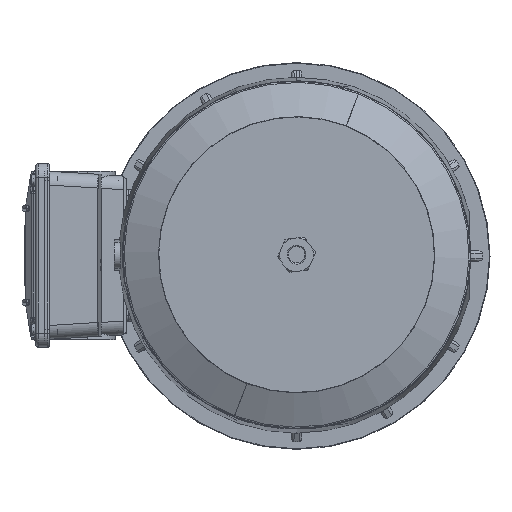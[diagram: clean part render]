
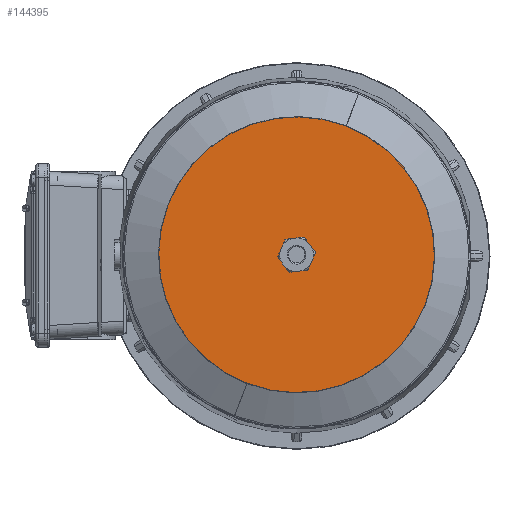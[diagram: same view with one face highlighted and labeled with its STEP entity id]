
A CAD part, top view. The second image highlights one B-rep face of the part: STEP entity #144395.
In plain terms, the highlighted planar face has unit normal (0, 0, 1) as drawn and (0, -1, 0) by its records, which use the part's own axes.
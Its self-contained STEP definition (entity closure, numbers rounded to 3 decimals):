
#21659 = ORIENTED_EDGE ( 'NONE', *, *, #56531, .T. ) ;
#22906 = CIRCLE ( 'NONE', #72457, 125. ) ;
#24454 = DIRECTION ( 'NONE',  ( 0., -1., 0. ) ) ;
#24789 = FACE_OUTER_BOUND ( 'NONE', #183727, .T. ) ;
#25455 = CARTESIAN_POINT ( 'NONE',  ( 0., 0., 0. ) ) ;
#26635 = CIRCLE ( 'NONE', #79137, 13.5 ) ;
#38911 = VERTEX_POINT ( 'NONE', #124630 ) ;
#42017 = DIRECTION ( 'NONE',  ( 0., 0., 1. ) ) ;
#52872 = DIRECTION ( 'NONE',  ( 0., 1., 0. ) ) ;
#56531 = EDGE_CURVE ( 'NONE', #180254, #38911, #81266, .T. ) ;
#60079 = EDGE_LOOP ( 'NONE', ( #179143, #21659 ) ) ;
#69357 = AXIS2_PLACEMENT_3D ( 'NONE', #123505, #24454, #140144 ) ;
#72457 = AXIS2_PLACEMENT_3D ( 'NONE', #74685, #190465, #91306 ) ;
#74685 = CARTESIAN_POINT ( 'NONE',  ( 0., 0., 0. ) ) ;
#79137 = AXIS2_PLACEMENT_3D ( 'NONE', #181359, #82266, #198063 ) ;
#81266 = CIRCLE ( 'NONE', #108115, 13.5 ) ;
#82266 = DIRECTION ( 'NONE',  ( 0., 1., 0. ) ) ;
#91306 = DIRECTION ( 'NONE',  ( 0., 0., 1. ) ) ;
#108115 = AXIS2_PLACEMENT_3D ( 'NONE', #25455, #141137, #42017 ) ;
#109280 = CARTESIAN_POINT ( 'NONE',  ( 0., 0., -13.5 ) ) ;
#120430 = EDGE_CURVE ( 'NONE', #38911, #180254, #26635, .T. ) ;
#123505 = CARTESIAN_POINT ( 'NONE',  ( -13.5, 0., 0. ) ) ;
#124630 = CARTESIAN_POINT ( 'NONE',  ( 0., 0., 13.5 ) ) ;
#135885 = PLANE ( 'NONE',  #69357 ) ;
#138896 = CARTESIAN_POINT ( 'NONE',  ( 0., 0., 125. ) ) ;
#140144 = DIRECTION ( 'NONE',  ( 0., 0., -1. ) ) ;
#141137 = DIRECTION ( 'NONE',  ( 0., 1., 0. ) ) ;
#144395 = ADVANCED_FACE ( 'NONE', ( #151543, #24789 ), #135885, .T. ) ;
#150911 = ORIENTED_EDGE ( 'NONE', *, *, #153939, .F. ) ;
#151543 = FACE_BOUND ( 'NONE', #60079, .T. ) ;
#151979 = CARTESIAN_POINT ( 'NONE',  ( 0., 0., 0. ) ) ;
#153939 = EDGE_CURVE ( 'NONE', #202503, #203073, #22906, .T. ) ;
#160481 = ORIENTED_EDGE ( 'NONE', *, *, #167517, .F. ) ;
#162188 = CIRCLE ( 'NONE', #193265, 125. ) ;
#167517 = EDGE_CURVE ( 'NONE', #203073, #202503, #162188, .T. ) ;
#168647 = DIRECTION ( 'NONE',  ( 0., 0., 1. ) ) ;
#179143 = ORIENTED_EDGE ( 'NONE', *, *, #120430, .T. ) ;
#180254 = VERTEX_POINT ( 'NONE', #109280 ) ;
#181359 = CARTESIAN_POINT ( 'NONE',  ( 0., 0., 0. ) ) ;
#183727 = EDGE_LOOP ( 'NONE', ( #160481, #150911 ) ) ;
#190465 = DIRECTION ( 'NONE',  ( 0., 1., 0. ) ) ;
#193265 = AXIS2_PLACEMENT_3D ( 'NONE', #151979, #52872, #168647 ) ;
#198063 = DIRECTION ( 'NONE',  ( 0., 0., 1. ) ) ;
#202503 = VERTEX_POINT ( 'NONE', #205689 ) ;
#203073 = VERTEX_POINT ( 'NONE', #138896 ) ;
#205689 = CARTESIAN_POINT ( 'NONE',  ( 0., 0., -125. ) ) ;
